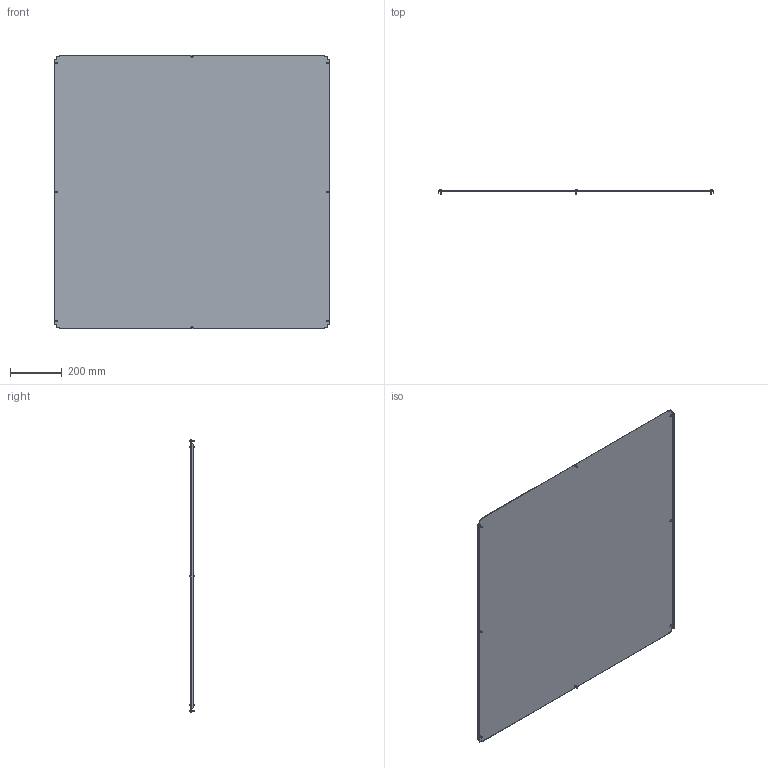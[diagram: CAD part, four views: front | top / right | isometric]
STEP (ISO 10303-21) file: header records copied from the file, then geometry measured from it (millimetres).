
FILE_DESCRIPTION (( 'STEP AP203' ), '1' );
FILE_NAME ('R5N1BP1212.STEP', '2025-02-21T13:59:55', ( '' ), ( '' ), 'SwSTEP 2.0', 'SolidWorks 2022', '' );
FILE_SCHEMA (( 'CONFIG_CONTROL_DESIGN' ));
Length unit declared in the file: millimetre
Products named in the file (3): RB.1923.00.00.0_-27; M5x12 DIN 7500 C Torx Zinc_stright; R5N1BP1212
Assembly tree (9 placements, depth 2):
  R5N1BP1212
    RB.1923.00.00.0_-27
    M5x12 DIN 7500 C Torx Zinc_stright  x8
Bounding box: 1068 x 15.56 x 1062 mm (x, y, z)
Volume: 1726163.3 mm3; surface area: 2307127 mm2
Topology: 9 solids, 9 shells, 206 faces, 468 edges, 288 vertices
Faces by surface type: plane 126, cylinder 32, torus 16, cone 16, sphere 8, bspline 8
Full cylindrical faces by diameter (mm): 5 x8, 9.5 x8
Entity records: 3641 total; most frequent: CARTESIAN_POINT 724, ORIENTED_EDGE 496, DIRECTION 496, EDGE_CURVE 248, LINE 196, VECTOR 196, VERTEX_POINT 166, AXIS2_PLACEMENT_3D 150
